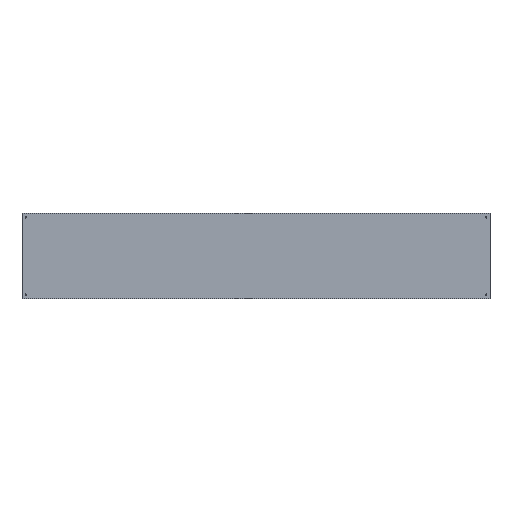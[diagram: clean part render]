
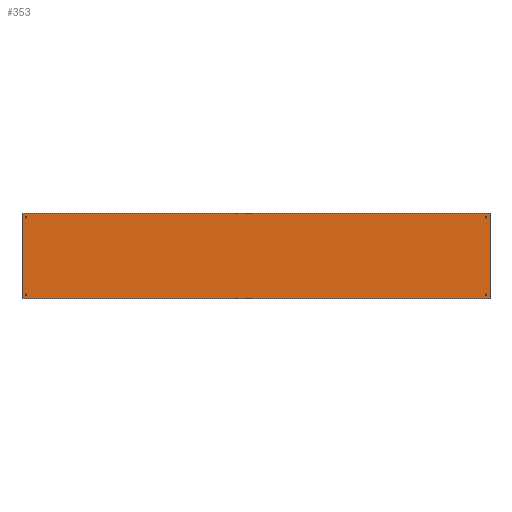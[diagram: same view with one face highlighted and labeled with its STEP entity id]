
A CAD part, top view. The second image highlights one B-rep face of the part: STEP entity #353.
In plain terms, the highlighted planar face has unit normal (0, 0, 1).
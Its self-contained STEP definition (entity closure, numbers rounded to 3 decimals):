
#30=FACE_BOUND('',#82,.T.);
#31=FACE_BOUND('',#83,.T.);
#32=FACE_BOUND('',#84,.T.);
#33=FACE_BOUND('',#85,.T.);
#42=CIRCLE('',#383,5.);
#43=CIRCLE('',#384,5.);
#44=CIRCLE('',#385,5.);
#45=CIRCLE('',#386,5.);
#46=CIRCLE('',#387,5.);
#47=CIRCLE('',#388,5.);
#48=CIRCLE('',#389,5.);
#49=CIRCLE('',#390,5.);
#59=FACE_OUTER_BOUND('',#81,.T.);
#81=EDGE_LOOP('',(#290,#291,#292,#293));
#82=EDGE_LOOP('',(#294,#295));
#83=EDGE_LOOP('',(#296,#297));
#84=EDGE_LOOP('',(#298,#299));
#85=EDGE_LOOP('',(#300,#301));
#101=LINE('',#524,#133);
#103=LINE('',#530,#135);
#110=LINE('',#543,#142);
#117=LINE('',#572,#149);
#133=VECTOR('',#413,304.8);
#135=VECTOR('',#417,304.8);
#142=VECTOR('',#426,304.8);
#149=VECTOR('',#461,304.8);
#158=VERTEX_POINT('',#509);
#165=VERTEX_POINT('',#522);
#167=VERTEX_POINT('',#527);
#168=VERTEX_POINT('',#529);
#182=VERTEX_POINT('',#574);
#183=VERTEX_POINT('',#575);
#184=VERTEX_POINT('',#578);
#185=VERTEX_POINT('',#579);
#186=VERTEX_POINT('',#582);
#187=VERTEX_POINT('',#583);
#188=VERTEX_POINT('',#586);
#189=VERTEX_POINT('',#587);
#197=EDGE_CURVE('',#165,#158,#101,.T.);
#199=EDGE_CURVE('',#167,#168,#103,.T.);
#206=EDGE_CURVE('',#158,#167,#110,.T.);
#221=EDGE_CURVE('',#168,#165,#117,.T.);
#222=EDGE_CURVE('',#182,#183,#42,.T.);
#223=EDGE_CURVE('',#183,#182,#43,.T.);
#224=EDGE_CURVE('',#184,#185,#44,.T.);
#225=EDGE_CURVE('',#185,#184,#45,.T.);
#226=EDGE_CURVE('',#186,#187,#46,.T.);
#227=EDGE_CURVE('',#187,#186,#47,.T.);
#228=EDGE_CURVE('',#188,#189,#48,.T.);
#229=EDGE_CURVE('',#189,#188,#49,.T.);
#290=ORIENTED_EDGE('',*,*,#197,.F.);
#291=ORIENTED_EDGE('',*,*,#221,.F.);
#292=ORIENTED_EDGE('',*,*,#199,.F.);
#293=ORIENTED_EDGE('',*,*,#206,.F.);
#294=ORIENTED_EDGE('',*,*,#222,.T.);
#295=ORIENTED_EDGE('',*,*,#223,.T.);
#296=ORIENTED_EDGE('',*,*,#224,.T.);
#297=ORIENTED_EDGE('',*,*,#225,.T.);
#298=ORIENTED_EDGE('',*,*,#226,.T.);
#299=ORIENTED_EDGE('',*,*,#227,.T.);
#300=ORIENTED_EDGE('',*,*,#228,.T.);
#301=ORIENTED_EDGE('',*,*,#229,.T.);
#343=PLANE('',#382);
#353=ADVANCED_FACE('',(#59,#30,#31,#32,#33),#343,.T.);
#382=AXIS2_PLACEMENT_3D('',#573,#462,#463);
#383=AXIS2_PLACEMENT_3D('',#576,#464,#465);
#384=AXIS2_PLACEMENT_3D('',#577,#466,#467);
#385=AXIS2_PLACEMENT_3D('',#580,#468,#469);
#386=AXIS2_PLACEMENT_3D('',#581,#470,#471);
#387=AXIS2_PLACEMENT_3D('',#584,#472,#473);
#388=AXIS2_PLACEMENT_3D('',#585,#474,#475);
#389=AXIS2_PLACEMENT_3D('',#588,#476,#477);
#390=AXIS2_PLACEMENT_3D('',#589,#478,#479);
#413=DIRECTION('',(0.,-1.,0.));
#417=DIRECTION('',(0.,1.,0.));
#426=DIRECTION('',(-1.,0.,0.));
#461=DIRECTION('',(1.,0.,0.));
#462=DIRECTION('center_axis',(0.,0.,1.));
#463=DIRECTION('ref_axis',(-1.,0.,0.));
#464=DIRECTION('center_axis',(0.,0.,-1.));
#465=DIRECTION('ref_axis',(1.,0.,0.));
#466=DIRECTION('center_axis',(0.,0.,-1.));
#467=DIRECTION('ref_axis',(1.,0.,0.));
#468=DIRECTION('center_axis',(0.,0.,-1.));
#469=DIRECTION('ref_axis',(1.,0.,0.));
#470=DIRECTION('center_axis',(0.,0.,-1.));
#471=DIRECTION('ref_axis',(1.,0.,0.));
#472=DIRECTION('center_axis',(0.,0.,-1.));
#473=DIRECTION('ref_axis',(1.,0.,0.));
#474=DIRECTION('center_axis',(0.,0.,-1.));
#475=DIRECTION('ref_axis',(1.,0.,0.));
#476=DIRECTION('center_axis',(0.,0.,-1.));
#477=DIRECTION('ref_axis',(1.,0.,0.));
#478=DIRECTION('center_axis',(0.,0.,-1.));
#479=DIRECTION('ref_axis',(1.,0.,0.));
#509=CARTESIAN_POINT('',(3000.,-275.,1.5));
#522=CARTESIAN_POINT('',(3000.,275.,1.5));
#524=CARTESIAN_POINT('',(3000.,275.,1.5));
#527=CARTESIAN_POINT('',(0.,-275.,1.5));
#529=CARTESIAN_POINT('',(0.,275.,1.5));
#530=CARTESIAN_POINT('',(0.,-275.,1.5));
#543=CARTESIAN_POINT('',(3000.,-275.,1.5));
#572=CARTESIAN_POINT('',(3000.,275.,1.5));
#573=CARTESIAN_POINT('Origin',(3000.,275.,1.5));
#574=CARTESIAN_POINT('',(30.,248.5,1.5));
#575=CARTESIAN_POINT('',(20.,248.5,1.5));
#576=CARTESIAN_POINT('Origin',(25.,248.5,1.5));
#577=CARTESIAN_POINT('Origin',(25.,248.5,1.5));
#578=CARTESIAN_POINT('',(30.,-248.5,1.5));
#579=CARTESIAN_POINT('',(20.,-248.5,1.5));
#580=CARTESIAN_POINT('Origin',(25.,-248.5,1.5));
#581=CARTESIAN_POINT('Origin',(25.,-248.5,1.5));
#582=CARTESIAN_POINT('',(2980.,248.5,1.5));
#583=CARTESIAN_POINT('',(2970.,248.5,1.5));
#584=CARTESIAN_POINT('Origin',(2975.,248.5,1.5));
#585=CARTESIAN_POINT('Origin',(2975.,248.5,1.5));
#586=CARTESIAN_POINT('',(2980.,-248.5,1.5));
#587=CARTESIAN_POINT('',(2970.,-248.5,1.5));
#588=CARTESIAN_POINT('Origin',(2975.,-248.5,1.5));
#589=CARTESIAN_POINT('Origin',(2975.,-248.5,1.5));
